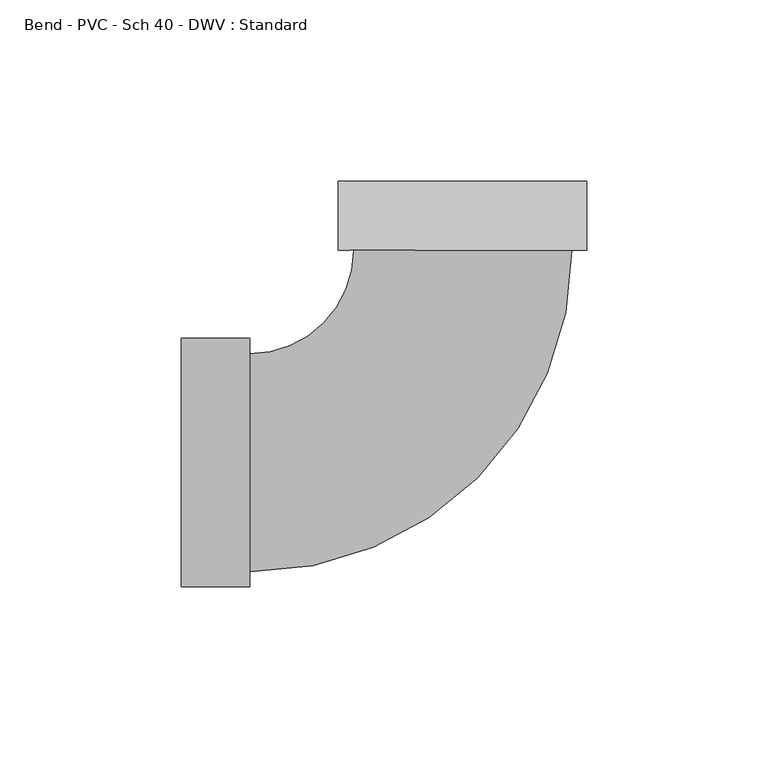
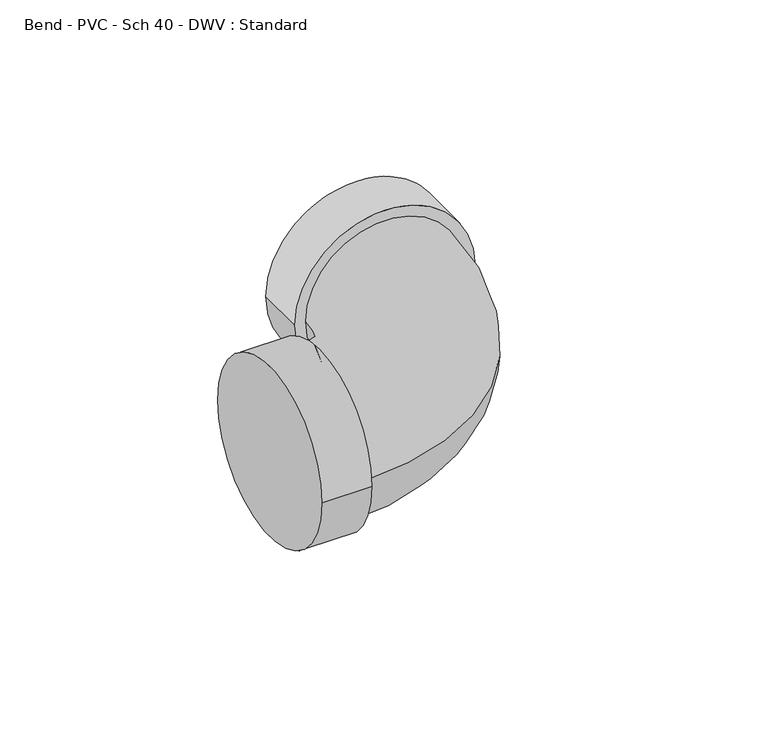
"""IFC4 building model written with IfcOpenShell, lengths in millimetres: pipe fitting geometry, Bend - PVC - Sch 40 - DWV : Standard."""

import ifcopenshell
import ifcopenshell.guid

model = None  # the IFC model being written
_history = None  # IfcOwnerHistory: only IFC2X3 demands one
_inside = {}  # id of a spatial element -> (the spatial element, [elements in it])
_under = {}  # id of a project, library or spatial element -> (it, [spatial elements below it])
_declared = {}  # id of a project -> (the project, [libraries it declares])
_typed = {}  # id of a type object -> (the type object, [elements of that type])
_made_of = {}  # id of a material, layer set ... -> (it, [elements and type objects made of it])


def new_model(schema):
    """Start an empty IFC model of exactly this schema.

    Asked for "IFC4X3", IfcOpenShell would pick the latest addendum, in which some entities
    have other attributes; the version numbers below select the first issue.
    IFC2X3 requires an IfcOwnerHistory on every rooted entity: one is made here for all.
    """
    global model, _history
    if schema == "IFC4X3":
        model = ifcopenshell.file(schema_version=(4, 3, 0, 0))
    else:
        model = ifcopenshell.file(schema=schema)
    _inside.clear()
    _under.clear()
    _declared.clear()
    _typed.clear()
    _made_of.clear()
    _history = None
    if model.schema == "IFC2X3":
        org = make("IfcOrganization", Name="unknown")
        user = make(
            "IfcPersonAndOrganization",
            ThePerson=make("IfcPerson", FamilyName="unknown"),
            TheOrganization=org,
        )
        app = make(
            "IfcApplication",
            ApplicationDeveloper=org,
            Version="unknown",
            ApplicationFullName="unknown",
            ApplicationIdentifier="unknown",
        )
        _history = make(
            "IfcOwnerHistory",
            OwningUser=user,
            OwningApplication=app,
            ChangeAction="ADDED",
            CreationDate=0,
        )
    return model


def make(cls, **values):
    """One entity of the class cls with the attributes given. An attribute that is None is left unset."""
    return model.create_entity(
        cls, **{name: value for name, value in values.items() if value is not None}
    )


def rooted(cls, **values):
    """An entity with a GlobalId (a new one), such as an element, a storey or a relation."""
    return make(cls, GlobalId=ifcopenshell.guid.new(), OwnerHistory=_history, **values)


def si_unit(unit_type, name, prefix=None):
    """IfcSIUnit, for example si_unit("LENGTHUNIT", "METRE", prefix="MILLI")."""
    return make("IfcSIUnit", UnitType=unit_type, Prefix=prefix, Name=name)


def assignment(units):
    """IfcUnitAssignment: the units of a project."""
    return None if units is None else make("IfcUnitAssignment", Units=units)


def point(xyz):
    """IfcCartesianPoint."""
    return None if xyz is None else make("IfcCartesianPoint", Coordinates=xyz)


def direction(xyz):
    """IfcDirection."""
    return None if xyz is None else make("IfcDirection", DirectionRatios=xyz)


def frame(location, z_axis=None, x_axis=None):
    """IfcAxis2Placement3D, a coordinate frame: its origin and axes. An axis left out is left unset."""
    return make(
        "IfcAxis2Placement3D",
        Location=point(location),
        Axis=direction(z_axis),
        RefDirection=direction(x_axis),
    )


def origin():
    """The frame at (0, 0, 0) with its axes left unset."""
    return frame((0.0, 0.0, 0.0))


def place(relative_to, where):
    """IfcLocalPlacement: puts the frame where relative to a parent placement (None: the world)."""
    return make(
        "IfcLocalPlacement", PlacementRelTo=relative_to, RelativePlacement=where
    )


def context(
    kind, dimensions, precision=None, world=None, true_north=None, identifier=None
):
    """IfcGeometricRepresentationContext, for example the 3D "Model" context."""
    return make(
        "IfcGeometricRepresentationContext",
        ContextIdentifier=identifier,
        ContextType=kind,
        CoordinateSpaceDimension=dimensions,
        Precision=precision,
        WorldCoordinateSystem=world,
        TrueNorth=true_north,
    )


def project(units=None, contexts=None):
    """IfcProject with its units and contexts."""
    return rooted(
        "IfcProject",
        Name="project",
        RepresentationContexts=contexts,
        UnitsInContext=assignment(units),
    )


def spatial(cls, under=None, at=None, **own):
    """A site, building, storey or space (cls), placed at a placement, below another one or the project."""
    s = rooted(cls, ObjectPlacement=at, **own)
    if under is not None:
        _under.setdefault(under.id(), (under, []))[1].append(s)
    return s


def circle_curve(where, radius):
    """IfcCircle in the frame where."""
    return make("IfcCircle", Position=where, Radius=radius)


def ellipse_curve(where, semi_axis1, semi_axis2):
    """IfcEllipse in the frame where."""
    return make(
        "IfcEllipse", Position=where, SemiAxis1=semi_axis1, SemiAxis2=semi_axis2
    )


def trimmed(basis, trim1, trim2, sense, master):
    """IfcTrimmedCurve: the piece of a basis curve between two trims."""
    return make(
        "IfcTrimmedCurve",
        BasisCurve=basis,
        Trim1=trim1,
        Trim2=trim2,
        SenseAgreement=sense,
        MasterRepresentation=master,
    )


def shape(context_of_items, identifier, shape_type, items):
    """IfcShapeRepresentation: the items that make up one representation, for example the "Body"."""
    return make(
        "IfcShapeRepresentation",
        ContextOfItems=context_of_items,
        RepresentationIdentifier=identifier,
        RepresentationType=shape_type,
        Items=items,
    )


def source(mapping_origin, context_of_items, identifier, shape_type, items):
    """IfcRepresentationMap: a shape defined once, which mapped items show again and again."""
    return make(
        "IfcRepresentationMap",
        MappingOrigin=mapping_origin,
        MappedRepresentation=shape(context_of_items, identifier, shape_type, items),
    )


def transform(
    local_origin,
    x_axis=None,
    y_axis=None,
    z_axis=None,
    scale=None,
    scale2=None,
    scale3=None,
    uniform=True,
):
    """IfcCartesianTransformationOperator3D, or its non-uniform kind. x_axis, y_axis, z_axis: its Axis1, 2, 3."""
    if uniform:
        return make(
            "IfcCartesianTransformationOperator3D",
            Axis1=direction(x_axis),
            Axis2=direction(y_axis),
            LocalOrigin=point(local_origin),
            Scale=scale,
            Axis3=direction(z_axis),
        )
    return make(
        "IfcCartesianTransformationOperator3DnonUniform",
        Axis1=direction(x_axis),
        Axis2=direction(y_axis),
        LocalOrigin=point(local_origin),
        Scale=scale,
        Axis3=direction(z_axis),
        Scale2=scale2,
        Scale3=scale3,
    )


def mapped(mapping_source, mapping_target):
    """IfcMappedItem: shows the shape of a source again, moved by a transform."""
    return make(
        "IfcMappedItem", MappingSource=mapping_source, MappingTarget=mapping_target
    )


def made_of(thing, what):
    """Note that an element or type object is made of a material, layer set ...; save() writes the relation."""
    if what is not None:
        _made_of.setdefault(what.id(), (what, []))[1].append(thing)
    return thing


def element(
    cls,
    number,
    at=None,
    inside=None,
    cuts=None,
    type_object=None,
    material=None,
    context=None,
    identifier="Body",
    shape_type=None,
    held_by="IfcProductDefinitionShape",
    body=None,
    shapes=None,
    **own,
):
    """One element of the class cls, such as IfcWall. Its Tag is "e" and its number.

    at: its placement. inside: the storey or other place that contains it. cuts: it is an
    opening in that element (IfcRelVoidsElement). A single representation is given by context,
    identifier, shape_type and body (its items); several are given by shapes. held_by: the class
    of the entity that holds the representations. save() writes the other relations.
    """
    e = rooted(cls, Tag="e%d" % number, ObjectPlacement=at, **own)
    if body is not None:
        shapes = [shape(context, identifier, shape_type, body)]
    if shapes is not None:
        e.Representation = make(held_by, Representations=shapes)
    if inside is not None:
        _inside.setdefault(inside.id(), (inside, []))[1].append(e)
    if cuts is not None:
        rooted(
            "IfcRelVoidsElement", RelatingBuildingElement=cuts, RelatedOpeningElement=e
        )
    if type_object is not None:
        _typed.setdefault(type_object.id(), (type_object, []))[1].append(e)
    return made_of(e, material)


def aggregate(whole, parts):
    """IfcRelAggregates: a whole, such as a stair, and the parts it consists of."""
    return rooted("IfcRelAggregates", RelatingObject=whole, RelatedObjects=parts)


def save(model, path):
    """Write the relations noted so far, then the file.

    IfcRelAggregates (storeys below a building ...), IfcRelContainedInSpatialStructure (elements
    in a storey), IfcRelDefinesByType, IfcRelAssociatesMaterial and IfcRelDeclares: one each for
    every whole, place, type object, material and project.
    """
    for whole, parts in _under.values():
        aggregate(whole, parts)
    for where, things in _inside.values():
        rooted(
            "IfcRelContainedInSpatialStructure",
            RelatedElements=things,
            RelatingStructure=where,
        )
    for kind, things in _typed.values():
        rooted("IfcRelDefinesByType", RelatedObjects=things, RelatingType=kind)
    for what, things in _made_of.values():
        rooted("IfcRelAssociatesMaterial", RelatedObjects=things, RelatingMaterial=what)
    for by, libraries in _declared.values():
        rooted("IfcRelDeclares", RelatingContext=by, RelatedDefinitions=libraries)
    model.write(path)


def plane_surface(at):
    """IfcPlane: the flat surface through the origin of the frame at, square to its z axis."""
    return make("IfcPlane", Position=at)


def cylinder_surface(at, radius):
    """IfcCylindricalSurface: all points at the distance radius from the z axis of the frame at."""
    return make("IfcCylindricalSurface", Position=at, Radius=radius)


def revolved_surface(curve, axis_point, axis_direction):
    """IfcSurfaceOfRevolution: the curve turned about the line through axis_point along axis_direction."""
    return make(
        "IfcSurfaceOfRevolution",
        SweptCurve=make("IfcArbitraryOpenProfileDef", ProfileType="CURVE", Curve=curve),
        AxisPosition=make("IfcAxis1Placement", Location=point(axis_point), Axis=direction(axis_direction)),
    )


def advanced_brep(points, edges, surfaces, faces):
    """IfcAdvancedBrep: a solid bounded by faces that lie on surfaces and meet in shared edges.

    An edge is (start, end): straight between two places in points (the first is 0);
    or (start, end, curve); or (start, end, curve, False) where it runs against its curve.
    A face is (place in surfaces, loops), or (place, loops, False) where it looks against
    its surface's normal. A loop lists edges by number (the first is 1), with a minus sign
    where the edge is run from its end to its start. The first loop is the outer one.
    """
    corners = [point(p) for p in points]
    vertices = [make("IfcVertexPoint", VertexGeometry=c) for c in corners]
    made = []
    for start, end, *more in edges:
        made.append(
            make(
                "IfcEdgeCurve",
                EdgeStart=vertices[start],
                EdgeEnd=vertices[end],
                EdgeGeometry=more[0] if more else make("IfcPolyline", Points=[corners[start], corners[end]]),
                SameSense=more[1] if len(more) > 1 else True,
            )
        )
    hull = []
    for where, loops, *sense in faces:
        bounds = []
        for j, loop in enumerate(loops):
            ring = [make("IfcOrientedEdge", EdgeElement=made[abs(k) - 1], Orientation=k > 0) for k in loop]
            bounds.append(
                make(
                    "IfcFaceOuterBound" if j == 0 else "IfcFaceBound",
                    Bound=make("IfcEdgeLoop", EdgeList=ring),
                    Orientation=True,
                )
            )
        hull.append(make("IfcAdvancedFace", Bounds=bounds, FaceSurface=surfaces[where], SameSense=sense[0] if sense else True))
    return make("IfcAdvancedBrep", Outer=make("IfcClosedShell", CfsFaces=hull))


def bend_pvc_sch_40_dwv_standard_0e59f3f3(model_context):
    return source(origin(), model_context, "Body", "AdvancedBrep", [
        advanced_brep(
        [(-77.8002, -34.3154, 0.0), (-77.8002, 34.3154, 0.0), (-58.7502, -34.3154, 0.0), (-58.7502, 34.3154, 0.0), (-58.7502, -30.1625, 0.0), (-58.7502, 30.1625, 0.0), (-30.1534121, 58.7548648, 0.0), (30.1715871, 58.7455338, 0.0), (34.3244871, 58.7448914, 0.0), (-34.3063121, 58.7555072, 0.0), (34.3274337, 77.7948912, 0.0), (-34.3033654, 77.805507, 0.0)],
        [
            (0, 1, circle_curve(frame((-77.8002, 0.0, 0.0), z_axis=(-1.0, 0.0, 0.0), x_axis=(0.0, 1.0, 0.0)), 34.3154)),
            (1, 0, circle_curve(frame((-77.8002, 0.0, 0.0), z_axis=(-1.0, 0.0, 0.0), x_axis=(0.0, 1.0, 0.0)), 34.3154)),
            (2, 3, circle_curve(frame((-58.7502, 0.0, 0.0), z_axis=(1.0, 0.0, 0.0), x_axis=(0.0, 1.0, 0.0)), 34.3154)),
            (3, 2, circle_curve(frame((-58.7502, 0.0, 0.0), z_axis=(1.0, 0.0, 0.0), x_axis=(0.0, 1.0, 0.0)), 34.3154)),
            (4, 5, circle_curve(frame((-58.7502, 0.0, 0.0), z_axis=(-1.0, 0.0, 0.0), x_axis=(0.0, 1.0, 0.0)), 30.1625)),
            (5, 4, circle_curve(frame((-58.7502, 0.0, 0.0), z_axis=(-1.0, 0.0, 0.0), x_axis=(0.0, 1.0, 0.0)), 30.1625)),
            (0, 2),
            (3, 1),
            (6, 5, circle_curve(frame((-58.7502, 58.7592882, 0.0), z_axis=(0.0, 0.0, -1.0), x_axis=(0.0, -1.0, 0.0)), 28.5967882)),
            (4, 7, circle_curve(frame((-58.7502, 58.7592882, 0.0), z_axis=(0.0, 0.0, 1.0), x_axis=(0.0, -1.0, 0.0)), 88.9217882)),
            (7, 6, circle_curve(frame((0.0090875, 58.7501993, 0.0), z_axis=(-0.00015468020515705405, -0.999999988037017, 0.0), x_axis=(-0.999999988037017, 0.00015468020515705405, 0.0)), 30.1625)),
            (6, 7, circle_curve(frame((0.0090875, 58.7501993, 0.0), z_axis=(-0.00015468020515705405, -0.999999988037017, 0.0), x_axis=(-0.999999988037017, 0.00015468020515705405, 0.0)), 30.1625)),
            (8, 9, circle_curve(frame((0.0090875, 58.7501993, 0.0), z_axis=(-0.0001546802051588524, -0.9999999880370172, 0.0), x_axis=(-0.9999999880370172, 0.0001546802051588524, 0.0)), 34.3154)),
            (9, 8, circle_curve(frame((0.0090875, 58.7501993, 0.0), z_axis=(-0.0001546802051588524, -0.9999999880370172, 0.0), x_axis=(-0.9999999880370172, 0.0001546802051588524, 0.0)), 34.3154)),
            (10, 11, circle_curve(frame((0.0120342, 77.8001991, 0.0), z_axis=(0.0001546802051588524, 0.9999999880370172, 0.0), x_axis=(-0.9999999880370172, 0.0001546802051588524, 0.0)), 34.3154)),
            (11, 10, circle_curve(frame((0.0120342, 77.8001991, 0.0), z_axis=(0.0001546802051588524, 0.9999999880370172, 0.0), x_axis=(-0.9999999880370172, 0.0001546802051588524, 0.0)), 34.3154)),
            (8, 10),
            (11, 9),
        ],
        [
            plane_surface(frame((-77.8002, 0.0, 0.0), z_axis=(-1.0, 0.0, 0.0), x_axis=(0.0, 0.0, 1.0))),
            plane_surface(frame((-58.7502, 0.0, 0.0), z_axis=(1.0, 0.0, 0.0), x_axis=(0.0, 0.0, 1.0))),
            cylinder_surface(frame((-77.8002, 0.0, 0.0), z_axis=(-1.0, 0.0, 0.0), x_axis=(0.0, 1.0, 0.0)), 34.3154),
            revolved_surface(trimmed(ellipse_curve(frame((-58.7502, 0.0, 0.0), z_axis=(-1.0, 0.0, 0.0), x_axis=(0.0, 1.0, 0.0)), 30.1625, 30.1625), [point((-58.7502, -30.1625, 0.0))], [point((-58.7502, 30.1625, 0.0))], True, "CARTESIAN"), (-58.7502, 58.7592882, 0.0), (0.0, 0.0, 1.0)),
            revolved_surface(trimmed(ellipse_curve(frame((-58.7502, 0.0, 0.0), z_axis=(-1.0, 0.0, 0.0), x_axis=(0.0, 1.0, 0.0)), 30.1625, 30.1625), [point((-58.7502, 30.1625, 0.0))], [point((-58.7502, -30.1625, 0.0))], True, "CARTESIAN"), (-58.7502, 58.7592882, 0.0), (0.0, 0.0, 1.0)),
            plane_surface(frame((0.0090875, 58.7501993, 0.0), z_axis=(-0.0001546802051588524, -0.9999999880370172, 0.0), x_axis=(0.0, 0.0, 1.0))),
            plane_surface(frame((0.0120342, 77.8001991, 0.0), z_axis=(0.0001546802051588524, 0.9999999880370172, 0.0), x_axis=(0.0, 0.0, 1.0))),
            cylinder_surface(frame((0.0090875, 58.7501993, 0.0), z_axis=(-0.0001546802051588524, -0.9999999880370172, 0.0), x_axis=(-0.9999999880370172, 0.0001546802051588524, 0.0)), 34.3154),
        ],
        [
            (0, [[1, 2]]),
            (1, [[3, 4], [5, 6]]),
            (2, [[-1, 7, -4, 8]]),
            (2, [[-2, -8, -3, -7]]),
            (3, [[9, -5, 10, 11]]),
            (4, [[-9, 12, -10, -6]]),
            (5, [[13, 14], [-11, -12]]),
            (6, [[15, 16]]),
            (7, [[-13, 17, -16, 18]]),
            (7, [[-14, -18, -15, -17]]),
        ],
    ),
    ])


if __name__ == "__main__":
    model = new_model("IFC4")
    model_context = context("Model", 3, world=origin())
    ifc_project = project(units=[si_unit("LENGTHUNIT", "METRE", prefix="MILLI")], contexts=[model_context])
    site = spatial("IfcSite", under=ifc_project)
    building = spatial("IfcBuilding", under=site)
    placement = place(None, origin())
    bend_pvc_sch_40_dwv_standard_shape = bend_pvc_sch_40_dwv_standard_0e59f3f3(model_context)
    element("IfcPipeFitting", 1, ObjectType="Bend - PVC - Sch 40 - DWV : Standard", at=placement, inside=building, context=model_context, shape_type="MappedRepresentation", body=[
        mapped(bend_pvc_sch_40_dwv_standard_shape, transform((0.0, 0.0, 0.0), x_axis=(1.0, 0.0, 0.0), y_axis=(0.0, 1.0, 0.0), z_axis=(0.0, 0.0, 1.0))),
    ])
    save(model, "model.ifc")
